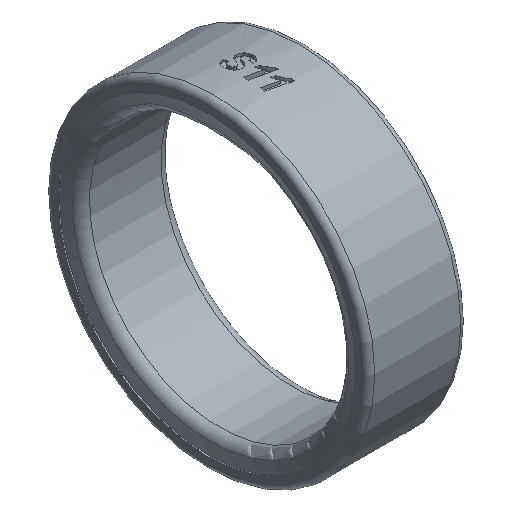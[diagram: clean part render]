
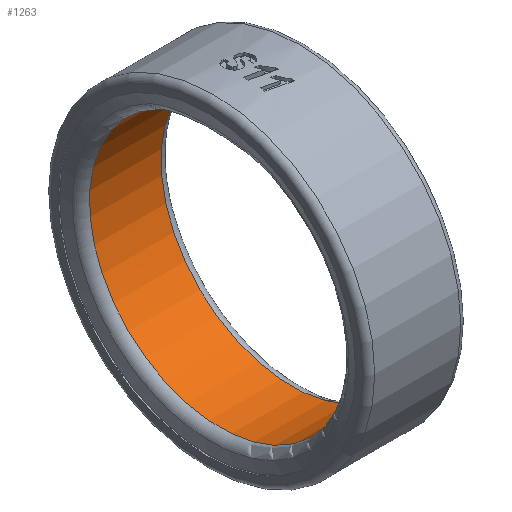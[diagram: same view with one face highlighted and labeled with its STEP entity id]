
A CAD part, isometric view. The second image highlights one B-rep face of the part: STEP entity #1263.
In plain terms, the highlighted cylindrical face has radius 10.78 mm (diameter 21.56 mm), a partial arc.
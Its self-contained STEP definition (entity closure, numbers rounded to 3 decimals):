
#22=B_SPLINE_CURVE_WITH_KNOTS('',3,(#1946,#1947,#1948,#1949),
 .UNSPECIFIED.,.F.,.F.,(4,4),(0.,0.12),
 .UNSPECIFIED.);
#23=B_SPLINE_CURVE_WITH_KNOTS('',3,(#1951,#1952,#1953,#1954),
 .UNSPECIFIED.,.F.,.F.,(4,4),(0.,0.388),
 .UNSPECIFIED.);
#24=B_SPLINE_CURVE_WITH_KNOTS('',3,(#1956,#1957,#1958,#1959,#1960),
 .UNSPECIFIED.,.F.,.F.,(4,1,4),(0.991,1.036,1.109),
 .UNSPECIFIED.);
#25=B_SPLINE_CURVE_WITH_KNOTS('',3,(#1964,#1965,#1966,#1967,#1968,#1969),
 .UNSPECIFIED.,.F.,.F.,(4,1,1,4),(0.,0.074,
0.099,0.118),.UNSPECIFIED.);
#26=B_SPLINE_CURVE_WITH_KNOTS('',3,(#1971,#1972,#1973,#1974),
 .UNSPECIFIED.,.F.,.F.,(4,4),(0.,0.388),
 .UNSPECIFIED.);
#27=B_SPLINE_CURVE_WITH_KNOTS('',3,(#1975,#1976,#1977,#1978,#1979,#1980),
 .UNSPECIFIED.,.F.,.F.,(4,1,1,4),(0.99,1.073,1.1,
1.11),.UNSPECIFIED.);
#202=FACE_OUTER_BOUND('',#284,.T.);
#284=EDGE_LOOP('',(#890,#891,#892,#893,#894,#895,#896,#897));
#500=CIRCLE('',#1372,10.78);
#501=CIRCLE('',#1374,10.78);
#535=VERTEX_POINT('',#1871);
#539=VERTEX_POINT('',#1878);
#540=VERTEX_POINT('',#1945);
#541=VERTEX_POINT('',#1950);
#542=VERTEX_POINT('',#1955);
#543=VERTEX_POINT('',#1961);
#544=VERTEX_POINT('',#1963);
#545=VERTEX_POINT('',#1970);
#672=EDGE_CURVE('',#539,#535,#500,.T.);
#675=EDGE_CURVE('',#540,#539,#22,.T.);
#676=EDGE_CURVE('',#541,#540,#23,.T.);
#677=EDGE_CURVE('',#542,#541,#24,.T.);
#678=EDGE_CURVE('',#543,#542,#501,.T.);
#679=EDGE_CURVE('',#544,#543,#25,.T.);
#680=EDGE_CURVE('',#545,#544,#26,.T.);
#681=EDGE_CURVE('',#535,#545,#27,.T.);
#890=ORIENTED_EDGE('',*,*,#672,.F.);
#891=ORIENTED_EDGE('',*,*,#675,.F.);
#892=ORIENTED_EDGE('',*,*,#676,.F.);
#893=ORIENTED_EDGE('',*,*,#677,.F.);
#894=ORIENTED_EDGE('',*,*,#678,.F.);
#895=ORIENTED_EDGE('',*,*,#679,.F.);
#896=ORIENTED_EDGE('',*,*,#680,.F.);
#897=ORIENTED_EDGE('',*,*,#681,.F.);
#1247=CYLINDRICAL_SURFACE('',#1373,10.78);
#1263=ADVANCED_FACE('',(#202),#1247,.F.);
#1372=AXIS2_PLACEMENT_3D('',#1880,#1490,#1491);
#1373=AXIS2_PLACEMENT_3D('',#1944,#1492,#1493);
#1374=AXIS2_PLACEMENT_3D('',#1962,#1494,#1495);
#1490=DIRECTION('center_axis',(-1.,0.,0.));
#1491=DIRECTION('ref_axis',(0.,0.,-1.));
#1492=DIRECTION('center_axis',(1.,0.,0.));
#1493=DIRECTION('ref_axis',(0.,0.,-1.));
#1494=DIRECTION('center_axis',(1.,0.,0.));
#1495=DIRECTION('ref_axis',(0.,0.,
-1.));
#1871=CARTESIAN_POINT('',(2.943,-4.78,9.662));
#1878=CARTESIAN_POINT('',(2.943,4.78,9.663));
#1880=CARTESIAN_POINT('Origin',(2.943,0.,0.));
#1944=CARTESIAN_POINT('Origin',(-3.991,0.,0.));
#1945=CARTESIAN_POINT('',(1.906,5.406,9.327));
#1946=CARTESIAN_POINT('Ctrl Pts',(1.906,5.406,9.327));
#1947=CARTESIAN_POINT('Ctrl Pts',(2.294,5.301,9.389));
#1948=CARTESIAN_POINT('Ctrl Pts',(2.654,5.084,9.512));
#1949=CARTESIAN_POINT('Ctrl Pts',(2.945,4.781,9.662));
#1950=CARTESIAN_POINT('',(-1.934,5.406,9.327));
#1951=CARTESIAN_POINT('Ctrl Pts',(-1.934,5.406,9.327));
#1952=CARTESIAN_POINT('Ctrl Pts',(-0.679,5.735,9.136));
#1953=CARTESIAN_POINT('Ctrl Pts',(0.651,5.735,9.136));
#1954=CARTESIAN_POINT('Ctrl Pts',(1.906,5.406,9.327));
#1955=CARTESIAN_POINT('',(-2.959,4.792,9.656));
#1956=CARTESIAN_POINT('Ctrl Pts',(-2.959,4.792,9.656));
#1957=CARTESIAN_POINT('Ctrl Pts',(-2.849,4.905,9.6));
#1958=CARTESIAN_POINT('Ctrl Pts',(-2.538,5.173,9.461));
#1959=CARTESIAN_POINT('Ctrl Pts',(-2.171,5.343,9.363));
#1960=CARTESIAN_POINT('Ctrl Pts',(-1.934,5.406,9.327));
#1961=CARTESIAN_POINT('',(-2.959,-4.792,9.656));
#1962=CARTESIAN_POINT('Origin',(-2.959,0.,
0.));
#1963=CARTESIAN_POINT('',(-1.934,-5.406,9.327));
#1964=CARTESIAN_POINT('Ctrl Pts',(-1.934,-5.406,9.327));
#1965=CARTESIAN_POINT('Ctrl Pts',(-2.173,-5.343,9.363));
#1966=CARTESIAN_POINT('Ctrl Pts',(-2.477,-5.202,9.444));
#1967=CARTESIAN_POINT('Ctrl Pts',(-2.799,-4.948,9.579));
#1968=CARTESIAN_POINT('Ctrl Pts',(-2.911,-4.842,9.632));
#1969=CARTESIAN_POINT('Ctrl Pts',(-2.959,-4.792,9.657));
#1970=CARTESIAN_POINT('',(1.906,-5.406,9.327));
#1971=CARTESIAN_POINT('Ctrl Pts',(1.906,-5.406,9.327));
#1972=CARTESIAN_POINT('Ctrl Pts',(0.651,-5.735,9.136));
#1973=CARTESIAN_POINT('Ctrl Pts',(-0.679,-5.735,
9.136));
#1974=CARTESIAN_POINT('Ctrl Pts',(-1.934,-5.406,9.327));
#1975=CARTESIAN_POINT('Ctrl Pts',(2.942,-4.78,9.663));
#1976=CARTESIAN_POINT('Ctrl Pts',(2.743,-4.988,9.561));
#1977=CARTESIAN_POINT('Ctrl Pts',(2.439,-5.216,9.439));
#1978=CARTESIAN_POINT('Ctrl Pts',(2.047,-5.368,9.345));
#1979=CARTESIAN_POINT('Ctrl Pts',(1.94,-5.395,9.335));
#1980=CARTESIAN_POINT('Ctrl Pts',(1.906,-5.406,9.327));
